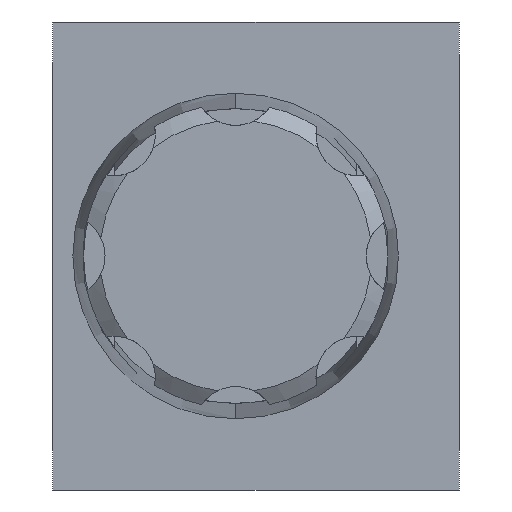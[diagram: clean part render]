
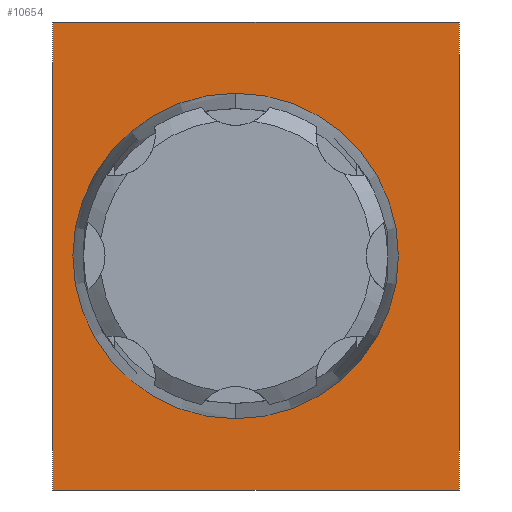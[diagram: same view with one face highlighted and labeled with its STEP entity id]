
A CAD part, left-side view. The second image highlights one B-rep face of the part: STEP entity #10654.
In plain terms, the highlighted planar face has unit normal (-1, 0, 0).
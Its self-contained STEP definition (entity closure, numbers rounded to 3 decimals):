
#884 = VECTOR ( 'NONE', #15687, 1000. ) ;
#982 = ORIENTED_EDGE ( 'NONE', *, *, #3477, .F. ) ;
#1138 = DIRECTION ( 'NONE',  ( 0., 0., 1. ) ) ;
#1335 = LINE ( 'NONE', #14295, #884 ) ;
#1533 = CARTESIAN_POINT ( 'NONE',  ( 0., 40., 0. ) ) ;
#1675 = EDGE_LOOP ( 'NONE', ( #11982, #16912 ) ) ;
#1788 = CARTESIAN_POINT ( 'NONE',  ( 0., 40., 0. ) ) ;
#2952 = ORIENTED_EDGE ( 'NONE', *, *, #17356, .F. ) ;
#3390 = VERTEX_POINT ( 'NONE', #12342 ) ;
#3477 = EDGE_CURVE ( 'NONE', #6066, #12636, #14254, .T. ) ;
#3713 = FACE_BOUND ( 'NONE', #1675, .T. ) ;
#3979 = EDGE_CURVE ( 'NONE', #6066, #5484, #1335, .T. ) ;
#4056 = ORIENTED_EDGE ( 'NONE', *, *, #3979, .T. ) ;
#5081 = CIRCLE ( 'NONE', #7158, 16. ) ;
#5484 = VERTEX_POINT ( 'NONE', #9170 ) ;
#5786 = CARTESIAN_POINT ( 'NONE',  ( 0., 22., -23. ) ) ;
#6066 = VERTEX_POINT ( 'NONE', #10802 ) ;
#6316 = VECTOR ( 'NONE', #8987, 1000. ) ;
#7158 = AXIS2_PLACEMENT_3D ( 'NONE', #17242, #8512, #18687 ) ;
#7261 = DIRECTION ( 'NONE',  ( 0., 0., -1. ) ) ;
#7328 = CIRCLE ( 'NONE', #12448, 16. ) ;
#7668 = LINE ( 'NONE', #17327, #11530 ) ;
#7707 = PLANE ( 'NONE',  #18992 ) ;
#8512 = DIRECTION ( 'NONE',  ( -1., 0., 0. ) ) ;
#8987 = DIRECTION ( 'NONE',  ( 0., -1., 0. ) ) ;
#9104 = EDGE_CURVE ( 'NONE', #5484, #3390, #7668, .T. ) ;
#9170 = CARTESIAN_POINT ( 'NONE',  ( 0., 0., -46. ) ) ;
#9226 = DIRECTION ( 'NONE',  ( 0., 0., -1. ) ) ;
#9932 = CARTESIAN_POINT ( 'NONE',  ( 0., 40., 0. ) ) ;
#10195 = LINE ( 'NONE', #1533, #6316 ) ;
#10368 = VECTOR ( 'NONE', #12666, 1000. ) ;
#10601 = FACE_OUTER_BOUND ( 'NONE', #11544, .T. ) ;
#10654 = ADVANCED_FACE ( 'NONE', ( #10601, #3713 ), #7707, .F. ) ;
#10802 = CARTESIAN_POINT ( 'NONE',  ( 0., 40., -46. ) ) ;
#11530 = VECTOR ( 'NONE', #1138, 1000. ) ;
#11544 = EDGE_LOOP ( 'NONE', ( #18406, #2952, #982, #4056 ) ) ;
#11722 = EDGE_CURVE ( 'NONE', #18370, #17363, #5081, .T. ) ;
#11907 = CARTESIAN_POINT ( 'NONE',  ( 0., 22., -7. ) ) ;
#11982 = ORIENTED_EDGE ( 'NONE', *, *, #11722, .F. ) ;
#12342 = CARTESIAN_POINT ( 'NONE',  ( 0., 0., 0. ) ) ;
#12448 = AXIS2_PLACEMENT_3D ( 'NONE', #5786, #15991, #7261 ) ;
#12636 = VERTEX_POINT ( 'NONE', #9932 ) ;
#12666 = DIRECTION ( 'NONE',  ( 0., 0., 1. ) ) ;
#13794 = CARTESIAN_POINT ( 'NONE',  ( 0., 22., -39. ) ) ;
#13991 = CARTESIAN_POINT ( 'NONE',  ( 0., 40., 0. ) ) ;
#14188 = EDGE_CURVE ( 'NONE', #17363, #18370, #7328, .T. ) ;
#14254 = LINE ( 'NONE', #13991, #10368 ) ;
#14295 = CARTESIAN_POINT ( 'NONE',  ( 0., 40., -46. ) ) ;
#15687 = DIRECTION ( 'NONE',  ( 0., -1., 0. ) ) ;
#15991 = DIRECTION ( 'NONE',  ( -1., 0., 0. ) ) ;
#16912 = ORIENTED_EDGE ( 'NONE', *, *, #14188, .F. ) ;
#17242 = CARTESIAN_POINT ( 'NONE',  ( 0., 22., -23. ) ) ;
#17327 = CARTESIAN_POINT ( 'NONE',  ( 0., 0., 0. ) ) ;
#17356 = EDGE_CURVE ( 'NONE', #12636, #3390, #10195, .T. ) ;
#17363 = VERTEX_POINT ( 'NONE', #11907 ) ;
#17952 = DIRECTION ( 'NONE',  ( 1., 0., 0. ) ) ;
#18370 = VERTEX_POINT ( 'NONE', #13794 ) ;
#18406 = ORIENTED_EDGE ( 'NONE', *, *, #9104, .T. ) ;
#18687 = DIRECTION ( 'NONE',  ( 0., 0., -1. ) ) ;
#18992 = AXIS2_PLACEMENT_3D ( 'NONE', #1788, #17952, #9226 ) ;
